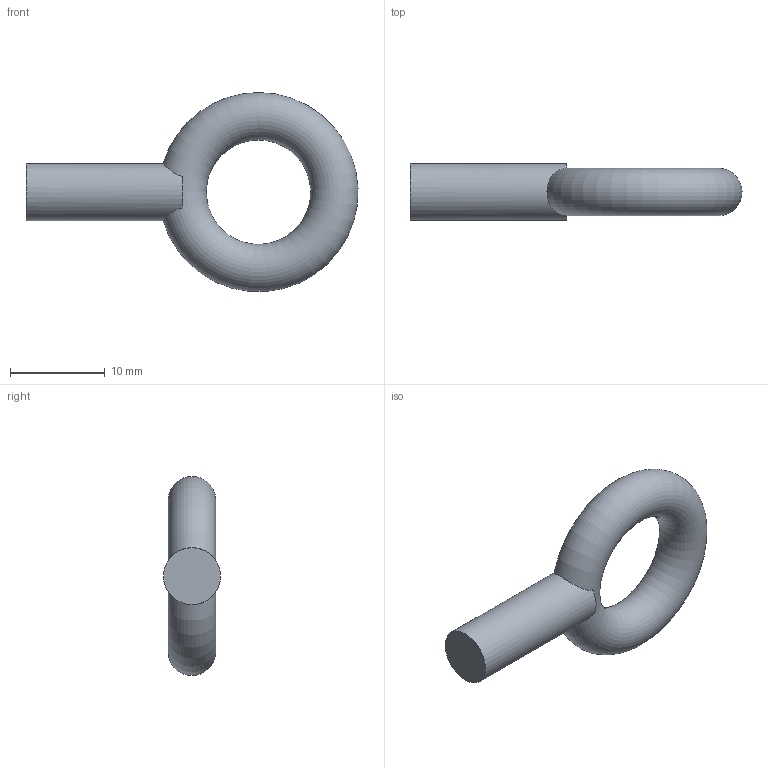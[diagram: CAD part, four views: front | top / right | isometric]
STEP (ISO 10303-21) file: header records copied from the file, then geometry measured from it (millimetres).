
FILE_DESCRIPTION(('Open CASCADE Model'),'2;1');
FILE_NAME('Open CASCADE Shape Model','2026-10-25T05:18:02',('Author'),( 'Open CASCADE'),'Open CASCADE STEP processor 7.9','Open CASCADE 7.9' ,'Unknown');
FILE_SCHEMA(('AUTOMOTIVE_DESIGN { 1 0 10303 214 1 1 1 1 }'));
Length unit declared in the file: millimetre
Products named in the file (1): Open CASCADE STEP translator 7.9 128
Bounding box: 34.99 x 6 x 20.97 mm (x, y, z)
Volume: 1403.4 mm3; surface area: 1075.6 mm2
Topology: 1 solids, 1 shells, 5 faces, 13 edges, 8 vertices
Faces by surface type: plane 3, cylinder 1, torus 1
Full cylindrical faces by diameter (mm): 6 x1
Entity records: 826 total; most frequent: CARTESIAN_POINT 575, DIRECTION 39, ORIENTED_EDGE 26, PCURVE 26, DEFINITIONAL_REPRESENTATION 26, B_SPLINE_CURVE_WITH_KNOTS 18, EDGE_CURVE 13, AXIS2_PLACEMENT_3D 12
